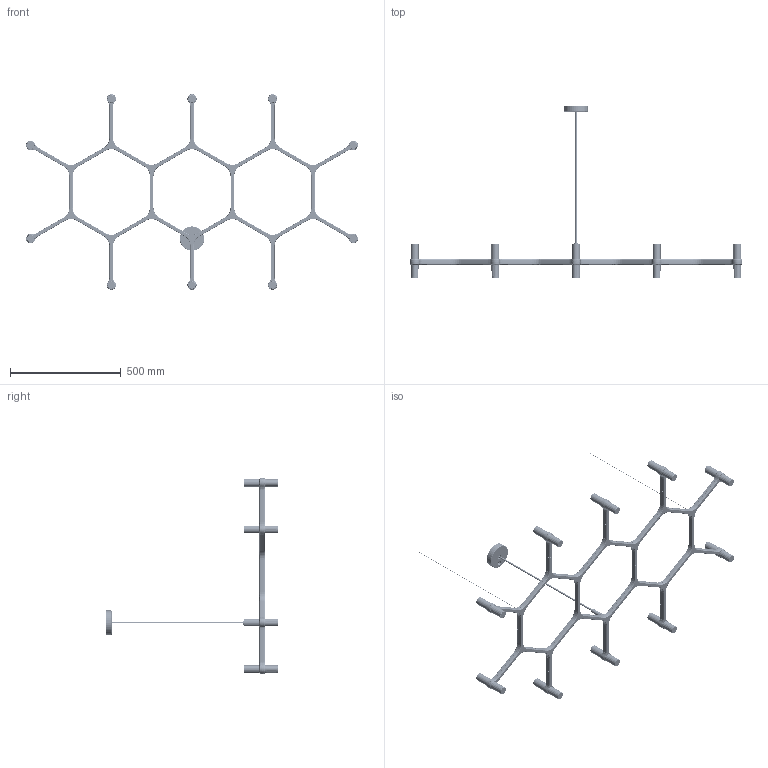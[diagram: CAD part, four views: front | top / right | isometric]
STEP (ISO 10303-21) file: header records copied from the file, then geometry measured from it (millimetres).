
FILE_DESCRIPTION (( 'STEP AP214' ), '1' );
FILE_NAME ('CROWN PLANA.STEP', '2014-04-15T16:22:58', ( 'winner' ), ( '' ), 'SwSTEP 2.0', 'SolidWorks 2012', '' );
FILE_SCHEMA (( 'AUTOMOTIVE_DESIGN' ));
Length unit declared in the file: millimetre
Products named in the file (19): cavo acciaio; 052COM700110; red cable; 051CRO700100; TERMINALE_ASM; 061CRO701200; 51G9-L18; 051CRO701200; 051CRO700600; 051CRO700800; 051CRO700500; CROCE-SUP-VITI_ASM; 051CRO700300; CROCE-SUP-COLONNA_ASM; 051CRO700900_ASM; BARRA_CORTA_M12X1; COLONNA; 051CRO700400; CROWN PLANA
Assembly tree (53 placements, depth 4):
  CROWN PLANA
    CROCE-SUP-COLONNA_ASM
      051CRO700400
      051CRO700900_ASM
        COLONNA
        BARRA_CORTA_M12X1
    CROCE-SUP-VITI_ASM  x9
      051CRO700300
    TERMINALE_ASM  x10
      051CRO700500
      051CRO700800
      051CRO700600
      051CRO701200
      51G9-L18
      061CRO701200
    051CRO700100  x14
    red cable
    052COM700110
    cavo acciaio  x2
    051CRO700300  x4
Bounding box: 1496.92 x 777.5 x 882 mm (x, y, z)
Volume: 389904.6 mm3; surface area: 1300689.8 mm2
Topology: 34 solids, 235 shells, 22426 faces, 60549 edges, 39544 vertices
Faces by surface type: plane 14036, cylinder 3638, bspline 3420, cone 1180, torus 152
Entity records: 87983 total; most frequent: CARTESIAN_POINT 29138, ORIENTED_EDGE 12612, DIRECTION 11164, EDGE_CURVE 6340, LINE 4618, VECTOR 4618, VERTEX_POINT 4144, AXIS2_PLACEMENT_3D 3273
